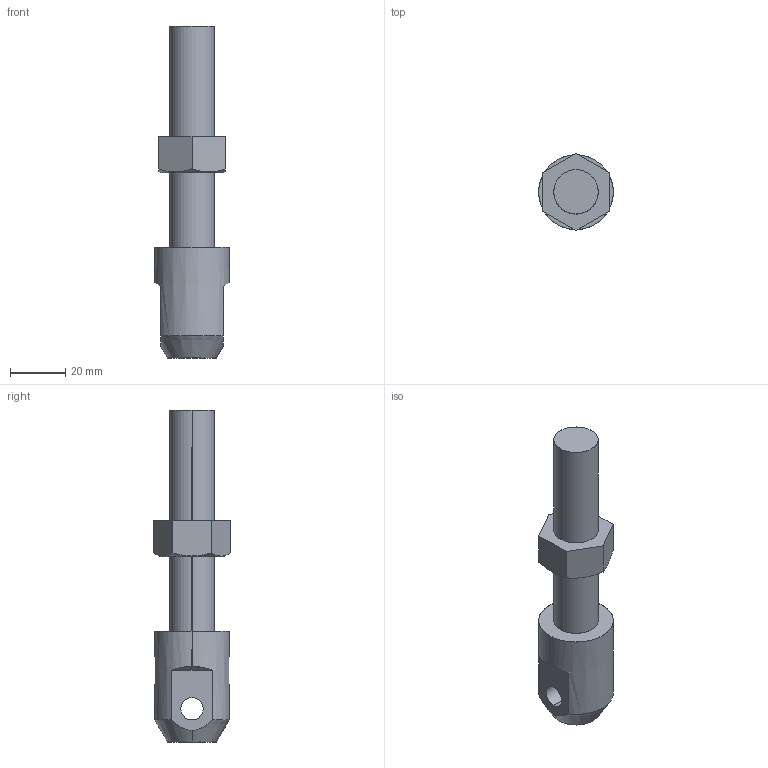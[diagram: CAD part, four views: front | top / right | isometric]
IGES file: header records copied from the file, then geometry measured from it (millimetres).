
Start section: SolidWorks IGES file using analytic representation for surfaces
Global section: file name: X:\11_SW2020-Inv2020\00_全2021-11新製品まで\c\CBS1-80-L\cbs1-80-l.IGS; native system: SolidWorks 2020; preprocessor: SolidWorks 2020; author: ImaoCorp; date: 211026.084705; units: millimetre
Bounding box: 27 x 27.71 x 120 mm (x, y, z)
Surface area: 10940.2 mm2 (no closed solid volume)
Topology: 0 solids, 0 shells, 27 faces, 534 edges, 534 vertices
Faces by surface type: bspline 15, revolution 12
